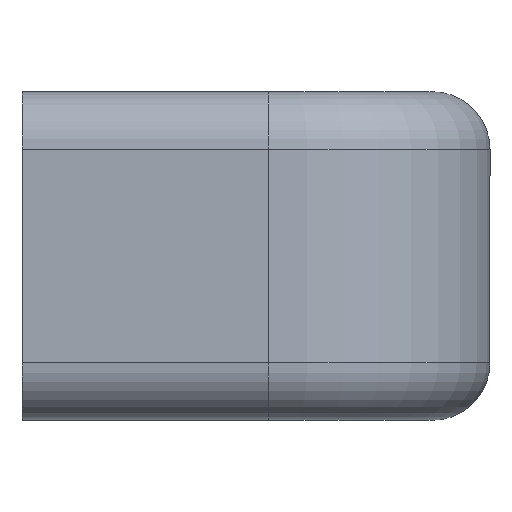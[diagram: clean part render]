
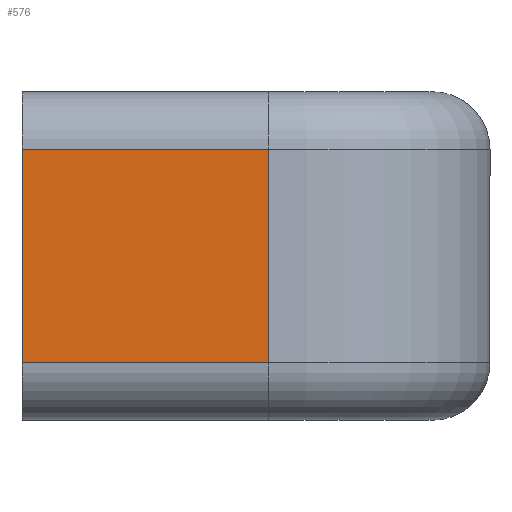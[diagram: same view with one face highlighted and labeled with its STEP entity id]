
A CAD part, front view. The second image highlights one B-rep face of the part: STEP entity #576.
In plain terms, the highlighted planar face has unit normal (0, -1, 0).
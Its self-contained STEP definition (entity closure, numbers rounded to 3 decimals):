
#84 = CARTESIAN_POINT ( 'NONE',  ( -10., -67.5, 6.5 ) ) ;
#90 = DIRECTION ( 'NONE',  ( 0., 0., 1. ) ) ;
#152 = CARTESIAN_POINT ( 'NONE',  ( -10., -67.5, -6.5 ) ) ;
#278 = ORIENTED_EDGE ( 'NONE', *, *, #1025, .T. ) ;
#279 = ORIENTED_EDGE ( 'NONE', *, *, #2467, .T. ) ;
#295 = CARTESIAN_POINT ( 'NONE',  ( -25., -67.5, -6.5 ) ) ;
#380 = EDGE_LOOP ( 'NONE', ( #278, #279, #833, #1738 ) ) ;
#410 = CARTESIAN_POINT ( 'NONE',  ( -10., -67.5, 6.5 ) ) ;
#462 = LINE ( 'NONE', #152, #2155 ) ;
#473 = CARTESIAN_POINT ( 'NONE',  ( -25., -67.5, 6.5 ) ) ;
#576 = ADVANCED_FACE ( 'NONE', ( #922 ), #1343, .T. ) ;
#609 = CARTESIAN_POINT ( 'NONE',  ( -10., -67.5, -6.5 ) ) ;
#712 = LINE ( 'NONE', #410, #1889 ) ;
#833 = ORIENTED_EDGE ( 'NONE', *, *, #2269, .F. ) ;
#919 = DIRECTION ( 'NONE',  ( 0., 0., 1. ) ) ;
#922 = FACE_OUTER_BOUND ( 'NONE', #380, .T. ) ;
#958 = VECTOR ( 'NONE', #919, 1000. ) ;
#962 = VERTEX_POINT ( 'NONE', #295 ) ;
#999 = VERTEX_POINT ( 'NONE', #473 ) ;
#1025 = EDGE_CURVE ( 'NONE', #2309, #2953, #712, .T. ) ;
#1163 = AXIS2_PLACEMENT_3D ( 'NONE', #84, #2809, #2503 ) ;
#1240 = CARTESIAN_POINT ( 'NONE',  ( -25., -67.5, 6.5 ) ) ;
#1343 = PLANE ( 'NONE',  #1163 ) ;
#1530 = DIRECTION ( 'NONE',  ( -1., 0., 0. ) ) ;
#1552 = LINE ( 'NONE', #1240, #958 ) ;
#1660 = EDGE_CURVE ( 'NONE', #2309, #962, #462, .T. ) ;
#1738 = ORIENTED_EDGE ( 'NONE', *, *, #1660, .F. ) ;
#1834 = CARTESIAN_POINT ( 'NONE',  ( -10., -67.5, 6.5 ) ) ;
#1889 = VECTOR ( 'NONE', #90, 1000. ) ;
#2150 = LINE ( 'NONE', #1834, #2522 ) ;
#2155 = VECTOR ( 'NONE', #2878, 1000. ) ;
#2223 = CARTESIAN_POINT ( 'NONE',  ( -10., -67.5, 6.5 ) ) ;
#2269 = EDGE_CURVE ( 'NONE', #962, #999, #1552, .T. ) ;
#2309 = VERTEX_POINT ( 'NONE', #609 ) ;
#2467 = EDGE_CURVE ( 'NONE', #2953, #999, #2150, .T. ) ;
#2503 = DIRECTION ( 'NONE',  ( 0., 0., -1. ) ) ;
#2522 = VECTOR ( 'NONE', #1530, 1000. ) ;
#2809 = DIRECTION ( 'NONE',  ( 0., -1., 0. ) ) ;
#2878 = DIRECTION ( 'NONE',  ( -1., 0., 0. ) ) ;
#2953 = VERTEX_POINT ( 'NONE', #2223 ) ;
